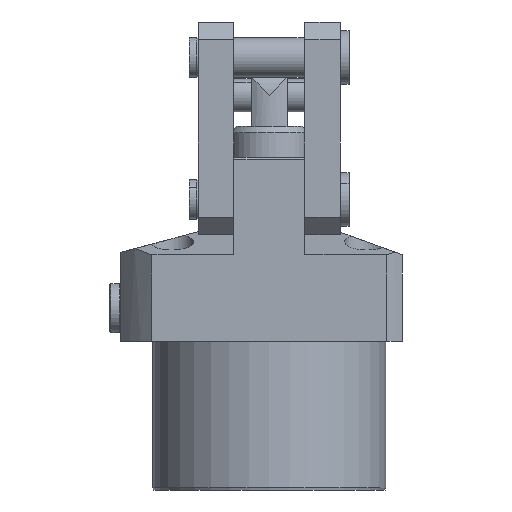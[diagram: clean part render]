
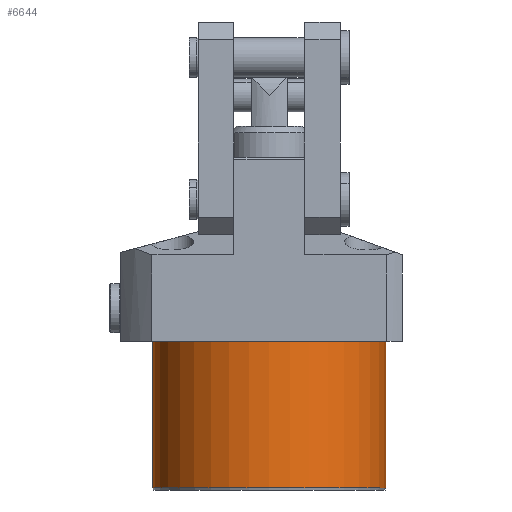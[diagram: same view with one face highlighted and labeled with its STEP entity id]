
A CAD part, front view. The second image highlights one B-rep face of the part: STEP entity #6644.
In plain terms, the highlighted cylindrical face has radius 52.5 mm (diameter 105 mm), a partial arc.
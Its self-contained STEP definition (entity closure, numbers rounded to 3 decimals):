
#253 = EDGE_CURVE ( 'NONE', #3256, #3713, #15243, .T. ) ;
#429 = CYLINDRICAL_SURFACE ( 'NONE', #2643, 52.5 ) ;
#1738 = VECTOR ( 'NONE', #11289, 1000. ) ;
#2417 = CARTESIAN_POINT ( 'NONE',  ( 52.5, 0., -67. ) ) ;
#2450 = VERTEX_POINT ( 'NONE', #3410 ) ;
#2643 = AXIS2_PLACEMENT_3D ( 'NONE', #13815, #11216, #3701 ) ;
#2875 = DIRECTION ( 'NONE',  ( 0., 0., -1. ) ) ;
#3256 = VERTEX_POINT ( 'NONE', #13693 ) ;
#3410 = CARTESIAN_POINT ( 'NONE',  ( -52.5, 0., 0. ) ) ;
#3701 = DIRECTION ( 'NONE',  ( 1., 0., 0. ) ) ;
#3713 = VERTEX_POINT ( 'NONE', #14173 ) ;
#3812 = VECTOR ( 'NONE', #6683, 1000. ) ;
#4217 = LINE ( 'NONE', #14317, #3812 ) ;
#4346 = ORIENTED_EDGE ( 'NONE', *, *, #253, .T. ) ;
#4398 = FACE_OUTER_BOUND ( 'NONE', #7731, .T. ) ;
#4628 = AXIS2_PLACEMENT_3D ( 'NONE', #10422, #2875, #11724 ) ;
#6644 = ADVANCED_FACE ( 'NONE', ( #4398 ), #429, .T. ) ;
#6683 = DIRECTION ( 'NONE',  ( 0., 0., 1. ) ) ;
#7731 = EDGE_LOOP ( 'NONE', ( #9682, #4346, #16424, #11160 ) ) ;
#8090 = LINE ( 'NONE', #2417, #1738 ) ;
#8578 = VERTEX_POINT ( 'NONE', #15939 ) ;
#9682 = ORIENTED_EDGE ( 'NONE', *, *, #14957, .F. ) ;
#10422 = CARTESIAN_POINT ( 'NONE',  ( 0., 0., 0. ) ) ;
#11118 = AXIS2_PLACEMENT_3D ( 'NONE', #12095, #11868, #12115 ) ;
#11160 = ORIENTED_EDGE ( 'NONE', *, *, #11413, .T. ) ;
#11216 = DIRECTION ( 'NONE',  ( 0., 0., 1. ) ) ;
#11289 = DIRECTION ( 'NONE',  ( 0., 0., 1. ) ) ;
#11413 = EDGE_CURVE ( 'NONE', #8578, #2450, #15365, .T. ) ;
#11724 = DIRECTION ( 'NONE',  ( 1., 0., 0. ) ) ;
#11868 = DIRECTION ( 'NONE',  ( 0., 0., 1. ) ) ;
#12095 = CARTESIAN_POINT ( 'NONE',  ( 0., 0., -66. ) ) ;
#12115 = DIRECTION ( 'NONE',  ( -1., 0., 0. ) ) ;
#12408 = EDGE_CURVE ( 'NONE', #3713, #8578, #8090, .T. ) ;
#13693 = CARTESIAN_POINT ( 'NONE',  ( -52.5, 0., -66. ) ) ;
#13815 = CARTESIAN_POINT ( 'NONE',  ( 0., 0., -67. ) ) ;
#14173 = CARTESIAN_POINT ( 'NONE',  ( 52.5, 0., -66. ) ) ;
#14317 = CARTESIAN_POINT ( 'NONE',  ( -52.5, 0., -67. ) ) ;
#14957 = EDGE_CURVE ( 'NONE', #3256, #2450, #4217, .T. ) ;
#15243 = CIRCLE ( 'NONE', #11118, 52.5 ) ;
#15365 = CIRCLE ( 'NONE', #4628, 52.5 ) ;
#15939 = CARTESIAN_POINT ( 'NONE',  ( 52.5, 0., 0. ) ) ;
#16424 = ORIENTED_EDGE ( 'NONE', *, *, #12408, .T. ) ;
